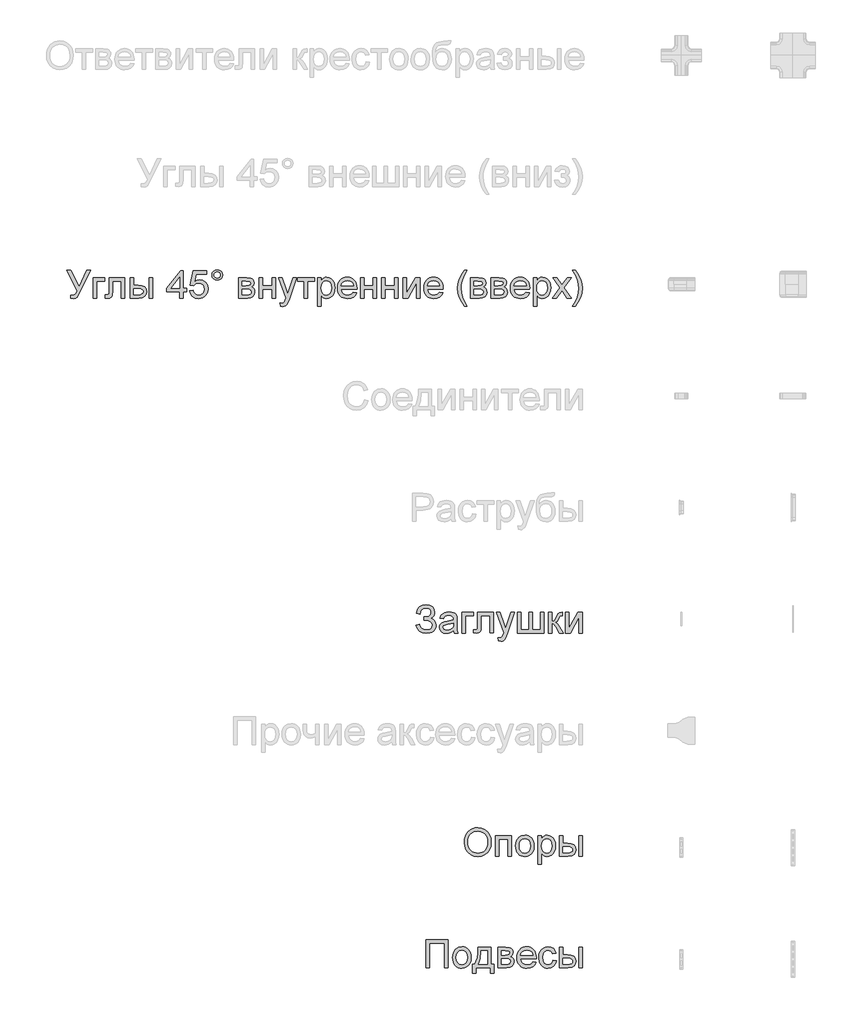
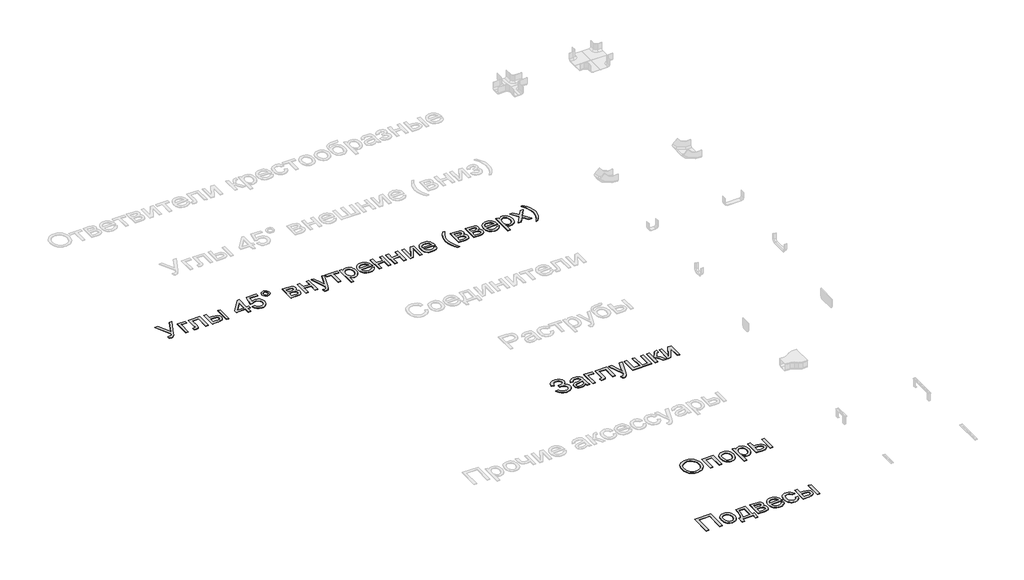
# One storey, part 3 of 11: 4 proxies.
"""IFC4 building model written with IfcOpenShell, lengths in millimetres."""

import ifcopenshell
import ifcopenshell.guid

model = None  # the IFC model being written
_history = None  # IfcOwnerHistory: only IFC2X3 demands one
_inside = {}  # id of a spatial element -> (the spatial element, [elements in it])
_under = {}  # id of a project, library or spatial element -> (it, [spatial elements below it])
_declared = {}  # id of a project -> (the project, [libraries it declares])
_typed = {}  # id of a type object -> (the type object, [elements of that type])
_made_of = {}  # id of a material, layer set ... -> (it, [elements and type objects made of it])


def new_model(schema):
    """Start an empty IFC model of exactly this schema.

    Asked for "IFC4X3", IfcOpenShell would pick the latest addendum, in which some entities
    have other attributes; the version numbers below select the first issue.
    IFC2X3 requires an IfcOwnerHistory on every rooted entity: one is made here for all.
    """
    global model, _history
    if schema == "IFC4X3":
        model = ifcopenshell.file(schema_version=(4, 3, 0, 0))
    else:
        model = ifcopenshell.file(schema=schema)
    _inside.clear()
    _under.clear()
    _declared.clear()
    _typed.clear()
    _made_of.clear()
    _history = None
    if model.schema == "IFC2X3":
        org = make("IfcOrganization", Name="unknown")
        user = make(
            "IfcPersonAndOrganization",
            ThePerson=make("IfcPerson", FamilyName="unknown"),
            TheOrganization=org,
        )
        app = make(
            "IfcApplication",
            ApplicationDeveloper=org,
            Version="unknown",
            ApplicationFullName="unknown",
            ApplicationIdentifier="unknown",
        )
        _history = make(
            "IfcOwnerHistory",
            OwningUser=user,
            OwningApplication=app,
            ChangeAction="ADDED",
            CreationDate=0,
        )
    return model


def make(cls, **values):
    """One entity of the class cls with the attributes given. An attribute that is None is left unset."""
    return model.create_entity(
        cls, **{name: value for name, value in values.items() if value is not None}
    )


def rooted(cls, **values):
    """An entity with a GlobalId (a new one), such as an element, a storey or a relation."""
    return make(cls, GlobalId=ifcopenshell.guid.new(), OwnerHistory=_history, **values)


def si_unit(unit_type, name, prefix=None):
    """IfcSIUnit, for example si_unit("LENGTHUNIT", "METRE", prefix="MILLI")."""
    return make("IfcSIUnit", UnitType=unit_type, Prefix=prefix, Name=name)


def assignment(units):
    """IfcUnitAssignment: the units of a project."""
    return None if units is None else make("IfcUnitAssignment", Units=units)


def point(xyz):
    """IfcCartesianPoint."""
    return None if xyz is None else make("IfcCartesianPoint", Coordinates=xyz)


def direction(xyz):
    """IfcDirection."""
    return None if xyz is None else make("IfcDirection", DirectionRatios=xyz)


def frame(location, z_axis=None, x_axis=None):
    """IfcAxis2Placement3D, a coordinate frame: its origin and axes. An axis left out is left unset."""
    return make(
        "IfcAxis2Placement3D",
        Location=point(location),
        Axis=direction(z_axis),
        RefDirection=direction(x_axis),
    )


def origin():
    """The frame at (0, 0, 0) with its axes left unset."""
    return frame((0.0, 0.0, 0.0))


def origin_with_axes():
    """The frame at (0, 0, 0) with the z axis (0, 0, 1) and the x axis (1, 0, 0) written out."""
    return frame((0.0, 0.0, 0.0), z_axis=(0.0, 0.0, 1.0), x_axis=(1.0, 0.0, 0.0))


def place(relative_to, where):
    """IfcLocalPlacement: puts the frame where relative to a parent placement (None: the world)."""
    return make(
        "IfcLocalPlacement", PlacementRelTo=relative_to, RelativePlacement=where
    )


def context(
    kind, dimensions, precision=None, world=None, true_north=None, identifier=None
):
    """IfcGeometricRepresentationContext, for example the 3D "Model" context."""
    return make(
        "IfcGeometricRepresentationContext",
        ContextIdentifier=identifier,
        ContextType=kind,
        CoordinateSpaceDimension=dimensions,
        Precision=precision,
        WorldCoordinateSystem=world,
        TrueNorth=true_north,
    )


def project(units=None, contexts=None):
    """IfcProject with its units and contexts."""
    return rooted(
        "IfcProject",
        Name="project",
        RepresentationContexts=contexts,
        UnitsInContext=assignment(units),
    )


def spatial(cls, under=None, at=None, **own):
    """A site, building, storey or space (cls), placed at a placement, below another one or the project."""
    s = rooted(cls, ObjectPlacement=at, **own)
    if under is not None:
        _under.setdefault(under.id(), (under, []))[1].append(s)
    return s


def polyline(points):
    """IfcPolyline through the points."""
    return make("IfcPolyline", Points=[point(p) for p in points])


def outline(outer, holes=None, kind="AREA"):
    """IfcArbitraryClosedProfileDef: a profile drawn as a closed curve; with holes, ...WithVoids."""
    if holes is None:
        return make("IfcArbitraryClosedProfileDef", ProfileType=kind, OuterCurve=outer)
    return make(
        "IfcArbitraryProfileDefWithVoids",
        ProfileType=kind,
        OuterCurve=outer,
        InnerCurves=holes,
    )


def extrude(swept, where, along, depth):
    """IfcExtrudedAreaSolid: the profile swept, set in the frame where, extruded along a direction by depth."""
    return make(
        "IfcExtrudedAreaSolid",
        SweptArea=swept,
        Position=where,
        ExtrudedDirection=direction(along),
        Depth=depth,
    )


def shape(context_of_items, identifier, shape_type, items):
    """IfcShapeRepresentation: the items that make up one representation, for example the "Body"."""
    return make(
        "IfcShapeRepresentation",
        ContextOfItems=context_of_items,
        RepresentationIdentifier=identifier,
        RepresentationType=shape_type,
        Items=items,
    )


def made_of(thing, what):
    """Note that an element or type object is made of a material, layer set ...; save() writes the relation."""
    if what is not None:
        _made_of.setdefault(what.id(), (what, []))[1].append(thing)
    return thing


def element(
    cls,
    number,
    at=None,
    inside=None,
    cuts=None,
    type_object=None,
    material=None,
    context=None,
    identifier="Body",
    shape_type=None,
    held_by="IfcProductDefinitionShape",
    body=None,
    shapes=None,
    **own,
):
    """One element of the class cls, such as IfcWall. Its Tag is "e" and its number.

    at: its placement. inside: the storey or other place that contains it. cuts: it is an
    opening in that element (IfcRelVoidsElement). A single representation is given by context,
    identifier, shape_type and body (its items); several are given by shapes. held_by: the class
    of the entity that holds the representations. save() writes the other relations.
    """
    e = rooted(cls, Tag="e%d" % number, ObjectPlacement=at, **own)
    if body is not None:
        shapes = [shape(context, identifier, shape_type, body)]
    if shapes is not None:
        e.Representation = make(held_by, Representations=shapes)
    if inside is not None:
        _inside.setdefault(inside.id(), (inside, []))[1].append(e)
    if cuts is not None:
        rooted(
            "IfcRelVoidsElement", RelatingBuildingElement=cuts, RelatedOpeningElement=e
        )
    if type_object is not None:
        _typed.setdefault(type_object.id(), (type_object, []))[1].append(e)
    return made_of(e, material)


def aggregate(whole, parts):
    """IfcRelAggregates: a whole, such as a stair, and the parts it consists of."""
    return rooted("IfcRelAggregates", RelatingObject=whole, RelatedObjects=parts)


def save(model, path):
    """Write the relations noted so far, then the file.

    IfcRelAggregates (storeys below a building ...), IfcRelContainedInSpatialStructure (elements
    in a storey), IfcRelDefinesByType, IfcRelAssociatesMaterial and IfcRelDeclares: one each for
    every whole, place, type object, material and project.
    """
    for whole, parts in _under.values():
        aggregate(whole, parts)
    for where, things in _inside.values():
        rooted(
            "IfcRelContainedInSpatialStructure",
            RelatedElements=things,
            RelatingStructure=where,
        )
    for kind, things in _typed.values():
        rooted("IfcRelDefinesByType", RelatedObjects=things, RelatingType=kind)
    for what, things in _made_of.values():
        rooted("IfcRelAssociatesMaterial", RelatedObjects=things, RelatingMaterial=what)
    for by, libraries in _declared.values():
        rooted("IfcRelDeclares", RelatingContext=by, RelatedDefinitions=libraries)
    model.write(path)


model = new_model("IFC4")

# Units and contexts
model_context = context("Model", 3, world=origin())
ifc_project = project(units=[si_unit("LENGTHUNIT", "METRE", prefix="MILLI")], contexts=[model_context])

# Site, building, storey
site = spatial("IfcSite", under=ifc_project)
building = spatial("IfcBuilding", under=site)
storey = spatial("IfcBuildingStorey", under=building, Name="Этаж 01", Elevation=0.0)

# Proxies
placement = place(None, origin())
element("IfcBuildingElementProxy", 1, Name="АБН_Маленькая надпись", ObjectType="АБН_Маленькая надпись", at=placement, inside=storey, context=model_context, shape_type="SweptSolid", body=[
    extrude(outline(polyline([(-19226.9236483, 2782.6703326), (-19192.1587997, 2782.6703326), (-19117.0495591, 2633.9233793), (-19049.4818993, 2782.6703326), (-19015.0236191, 2782.6703326), (-19110.3663695, 2587.0184249), (-19124.7597525, 2556.6375034), (-19136.3020501, 2538.9485108), (-19148.6107686, 2530.4412397), (-19165.3034141, 2527.6054827), (-19193.5690141, 2531.5295573), (-19193.5690141, 2558.9980796), (-19168.8596067, 2558.9980796), (-19158.9727781, 2560.7455191), (-19150.5268206, 2565.9878375), (-19142.4180883, 2577.4381646), (-19133.5429352, 2597.8096301), (-19226.9236483, 2782.6703326)])), origin_with_axes(), (0.0, 0.0, 1.0), 5.0),
    extrude(outline(polyline([(-18989.5171341, 2715.9610642), (-18887.4911941, 2715.9610642), (-18887.4911941, 2684.5684673), (-18958.1245371, 2684.5684673), (-18958.1245371, 2531.5295573), (-18989.5171341, 2531.5295573), (-18989.5171341, 2715.9610642)])), origin_with_axes(), (0.0, 0.0, 1.0), 5.0),
    extrude(outline(polyline([(-18848.2504479, 2715.9610642), (-18706.9837618, 2715.9610642), (-18706.9837618, 2531.7134983), (-18738.3763587, 2531.7134983), (-18738.3763587, 2684.5684673), (-18816.857851, 2684.5684673), (-18816.857851, 2596.5833568), (-18818.9731725, 2555.99371), (-18822.9355681, 2546.8043243), (-18830.5921121, 2538.8565403), (-18842.2110518, 2533.361303), (-18858.0606345, 2531.5295573), (-18883.5671195, 2533.1237126), (-18883.5671195, 2562.9221542), (-18869.52629, 2562.9221542), (-18855.3321763, 2564.8535347), (-18849.6606622, 2570.9849013), (-18848.2504479, 2598.3614531), (-18848.2504479, 2715.9610642)])), origin_with_axes(), (0.0, 0.0, 1.0), 5.0),
    extrude(outline(polyline([(-18487.2355833, 2715.9610642), (-18455.8429864, 2715.9610642), (-18455.8429864, 2531.5295573), (-18487.2355833, 2531.5295573), (-18487.2355833, 2715.9610642)])), origin_with_axes(), (0.0, 0.0, 1.0), 5.0),
    extrude(outline(polyline([(-18659.8948664, 2715.9610642), (-18628.5022695, 2715.9610642), (-18628.5022695, 2649.2517957), (-18589.690719, 2649.2517957), (-18556.1444795, 2645.3200569), (-18531.2894522, 2633.5248404), (-18515.9073863, 2614.8165081), (-18510.780031, 2590.1454218), (-18515.0796518, 2567.6816275), (-18527.9785143, 2548.7280405), (-18550.3196813, 2535.8291781), (-18582.9462157, 2531.5295573), (-18659.8948664, 2531.5295573), (-18659.8948664, 2715.9610642)]), holes=[polyline([(-18628.5022695, 2562.9221542), (-18596.2512812, 2562.9221542), (-18571.250634, 2564.569959), (-18554.6193021, 2569.5133733), (-18545.2842965, 2577.9516665), (-18542.1726279, 2590.0841082), (-18544.4795546, 2600.3388188), (-18551.4003346, 2609.3979129), (-18566.1999207, 2615.7438773), (-18592.1432656, 2617.8591988), (-18628.5022695, 2617.8591988), (-18628.5022695, 2562.9221542)])]), origin_with_axes(), (0.0, 0.0, 1.0), 5.0),
    extrude(outline(polyline([(-18216.4744349, 2531.5295573), (-18216.4744349, 2590.3906765), (-18330.2725987, 2590.3906765), (-18330.2725987, 2621.7832734), (-18208.6262856, 2778.746258), (-18185.0818379, 2778.746258), (-18185.0818379, 2621.7832734), (-18153.689241, 2621.7832734), (-18153.689241, 2590.3906765), (-18185.0818379, 2590.3906765), (-18185.0818379, 2531.5295573), (-18216.4744349, 2531.5295573)]), holes=[polyline([(-18216.4744349, 2621.7832734), (-18216.4744349, 2718.7814928), (-18291.6449892, 2621.7832734), (-18216.4744349, 2621.7832734)])]), origin_with_axes(), (0.0, 0.0, 1.0), 5.0),
    extrude(outline(polyline([(-18126.2207187, 2598.2388257), (-18094.8281218, 2602.1629003), (-18089.0646372, 2583.3166123), (-18079.009196, 2569.8199416), (-18064.7077834, 2561.7035451), (-18046.2063848, 2558.9980796), (-18023.7042694, 2562.7612058), (-18006.8430113, 2574.0505846), (-17996.3123892, 2591.5633004), (-17992.8021818, 2613.9964379), (-17996.0901271, 2635.1189958), (-18005.9539631, 2651.2751467), (-18022.4703319, 2661.5298573), (-18045.7158754, 2664.9480942), (-18060.9446572, 2663.5838651), (-18073.2763682, 2659.4911779), (-18090.9040472, 2645.3277211), (-18122.2966441, 2649.2517957), (-18094.8281218, 2778.746258), (-17973.1818087, 2778.746258), (-17973.1818087, 2747.3536611), (-18069.4442641, 2747.3536611), (-18082.871957, 2678.191846), (-18060.4464837, 2691.8034798), (-18036.9480212, 2696.3406911), (-18007.6170963, 2690.7151623), (-17983.2679068, 2673.8385757), (-17966.8741653, 2648.1174929), (-17961.4095849, 2615.9584752), (-17966.3300066, 2584.5658782), (-17981.0912716, 2557.7104926), (-17994.135754, 2544.5395508), (-18009.3568716, 2535.1317351), (-18026.7546243, 2529.4870458), (-18046.3290121, 2527.6054827), (-18077.1621218, 2532.4415981), (-18101.7259092, 2546.9499442), (-18118.5641747, 2569.4443954), (-18126.2207187, 2598.2388257)])), origin_with_axes(), (0.0, 0.0, 1.0), 5.0),
    extrude(outline(polyline([(-17926.0929133, 2739.5668255), (-17922.6363554, 2757.6696854), (-17912.2666817, 2772.8601461), (-17897.0532283, 2783.160842), (-17879.0653316, 2786.5944073), (-17860.8705013, 2783.160842), (-17845.6493837, 2772.8601461), (-17835.3486879, 2757.6696854), (-17831.9151226, 2739.5668255), (-17835.3716805, 2721.4869583), (-17845.7413542, 2706.2428482), (-17860.9854644, 2695.8731744), (-17879.0653316, 2692.4166165), (-17897.0532283, 2695.8501818), (-17912.2666817, 2706.1508777), (-17922.6363554, 2721.3719952), (-17926.0929133, 2739.5668255)]), holes=[polyline([(-17906.4725403, 2739.5055119), (-17904.4568535, 2728.9442329), (-17898.4097932, 2720.0690798), (-17889.5116474, 2714.0450121), (-17878.9427043, 2712.0369896), (-17868.4657316, 2714.0450121), (-17859.5982427, 2720.0690798), (-17853.5511824, 2728.9442329), (-17851.5354957, 2739.5055119), (-17853.5511824, 2750.0667908), (-17859.5982427, 2758.941944), (-17868.4657316, 2764.9660116), (-17878.9427043, 2766.9740342), (-17889.5116474, 2764.9660116), (-17898.4097932, 2758.941944), (-17904.4568535, 2750.0667908), (-17906.4725403, 2739.5055119)])]), origin_with_axes(), (0.0, 0.0, 1.0), 5.0),
    extrude(outline(polyline([(-17686.7243618, 2715.9610642), (-17617.5625467, 2715.9610642), (-17579.6400444, 2711.7610781), (-17568.0977468, 2705.8136525), (-17558.3028887, 2696.3713479), (-17551.6120349, 2684.0702937), (-17549.3817503, 2669.5466191), (-17554.7773529, 2647.7496109), (-17571.0254743, 2632.2065966), (-17559.4065346, 2625.6843554), (-17549.9335733, 2615.1920543), (-17543.6335941, 2601.5574279), (-17541.5336011, 2585.6082106), (-17546.8525616, 2561.6805525), (-17559.4985051, 2544.8346228), (-17579.5174171, 2534.8558236), (-17606.9552825, 2531.5295573), (-17686.7243618, 2531.5295573), (-17686.7243618, 2715.9610642)]), holes=[polyline([(-17655.3317649, 2645.3277211), (-17624.30705, 2645.3277211), (-17598.7085945, 2646.9218764), (-17586.2619203, 2653.2984977), (-17580.7743472, 2664.8254669), (-17583.1809086, 2674.1911293), (-17590.4005927, 2680.215197), (-17623.3260313, 2684.5684673), (-17655.3317649, 2684.5684673), (-17655.3317649, 2645.3277211)]), polyline([(-17655.3317649, 2562.9221542), (-17616.8267827, 2562.9221542), (-17595.8421806, 2564.3400327), (-17582.6750708, 2568.5936683), (-17575.6086709, 2576.3268544), (-17572.926198, 2588.1833845), (-17578.2911437, 2603.2972032), (-17592.2706596, 2612.0957142), (-17619.892466, 2613.9351242), (-17655.3317649, 2613.9351242), (-17655.3317649, 2562.9221542)])]), origin_with_axes(), (0.0, 0.0, 1.0), 5.0),
    extrude(outline(polyline([(-17502.2928549, 2715.9610642), (-17470.900258, 2715.9610642), (-17470.900258, 2645.3277211), (-17388.4946911, 2645.3277211), (-17388.4946911, 2715.9610642), (-17357.1020941, 2715.9610642), (-17357.1020941, 2531.5295573), (-17388.4946911, 2531.5295573), (-17388.4946911, 2613.9351242), (-17470.900258, 2613.9351242), (-17470.900258, 2531.5295573), (-17502.2928549, 2531.5295573), (-17502.2928549, 2715.9610642)])), origin_with_axes(), (0.0, 0.0, 1.0), 5.0),
    extrude(outline(polyline([(-17310.0131988, 2460.8962142), (-17313.9372734, 2491.1238515), (-17297.9957202, 2488.3647365), (-17283.0964994, 2491.8289586), (-17273.9607632, 2501.485861), (-17265.37685, 2524.601113), (-17262.9243034, 2532.2040076), (-17329.6335718, 2715.9610642), (-17296.5241923, 2715.9610642), (-17261.1462071, 2613.5672422), (-17248.8221602, 2572.6097134), (-17236.4981134, 2608.7847763), (-17200.1391095, 2715.9610642), (-17167.2749846, 2715.9610642), (-17231.4703928, 2527.1149733), (-17248.1477099, 2486.1574445), (-17256.6856379, 2473.0823053), (-17266.3578687, 2464.0232112), (-17277.5935979, 2458.7349075), (-17290.8220213, 2456.9721396), (-17310.0131988, 2460.8962142)])), origin_with_axes(), (0.0, 0.0, 1.0), 5.0),
    extrude(outline(polyline([(-17156.9742888, 2715.9610642), (-17007.8594534, 2715.9610642), (-17007.8594534, 2684.5684673), (-17066.7205726, 2684.5684673), (-17066.7205726, 2531.5295573), (-17098.1131695, 2531.5295573), (-17098.1131695, 2684.5684673), (-17156.9742888, 2684.5684673), (-17156.9742888, 2715.9610642)])), origin_with_axes(), (0.0, 0.0, 1.0), 5.0),
    extrude(outline(polyline([(-16980.3909311, 2460.8962142), (-16980.3909311, 2715.9610642), (-16948.9983342, 2715.9610642), (-16948.9983342, 2685.1816039), (-16938.758952, 2700.3644004), (-16927.2932964, 2711.2092551), (-16913.9269173, 2717.7161679), (-16897.9853642, 2719.8851388), (-16876.7555073, 2716.8501123), (-16858.192795, 2707.745033), (-16843.0789764, 2693.1217237), (-16832.1958007, 2673.5320074), (-16825.61991, 2650.401427), (-16823.4279465, 2625.155525), (-16825.9034857, 2598.3078036), (-16833.3301035, 2574.2958392), (-16845.4702093, 2554.338241), (-16862.0862128, 2539.653618), (-16881.4383386, 2530.6175165), (-16901.7868114, 2527.6054827), (-16916.2185155, 2529.6211694), (-16929.1020496, 2535.6682297), (-16948.9983342, 2556.0550236), (-16948.9983342, 2460.8962142), (-16980.3909311, 2460.8962142)]), holes=[polyline([(-16948.9983342, 2622.2737828), (-16945.6030899, 2594.1308101), (-16935.4173572, 2574.4491234), (-16920.3878448, 2562.8608405), (-16902.4612618, 2558.9980796), (-16884.2434388, 2562.9987963), (-16868.830716, 2575.0009464), (-16858.3230865, 2595.4030687), (-16854.8205434, 2624.6037021), (-16858.2387803, 2652.5933905), (-16868.4934909, 2672.5509888), (-16883.5000106, 2684.5071536), (-16901.1736748, 2688.4925419), (-16918.9163168, 2684.2542347), (-16934.4976522, 2671.5393133), (-16945.3731637, 2650.7463163), (-16948.9983342, 2622.2737828)])]), origin_with_axes(), (0.0, 0.0, 1.0), 5.0),
    extrude(outline(polyline([(-16658.9846946, 2586.4666019), (-16628.2052344, 2582.5425273), (-16639.2953437, 2559.3506332), (-16656.9920005, 2542.0141941), (-16680.896666, 2531.2076605), (-16710.6108013, 2527.6054827), (-16730.0893865, 2529.1594009), (-16747.444986, 2533.8211555), (-16762.6775999, 2541.5907466), (-16775.7872281, 2552.4681742), (-16786.3293465, 2566.1507019), (-16793.8594311, 2582.3355937), (-16798.3774819, 2601.0228494), (-16799.8834988, 2622.2124691), (-16798.3621534, 2644.1206083), (-16793.7981174, 2663.430581), (-16786.1913908, 2680.142387), (-16775.5419734, 2694.2560265), (-16762.4668342, 2705.4687631), (-16747.5829418, 2713.4778607), (-16730.8902963, 2718.2833193), (-16712.3888976, 2719.8851388), (-16694.4833911, 2718.2871514), (-16678.2908352, 2713.4931891), (-16663.8112298, 2705.5032521), (-16651.0445749, 2694.3173401), (-16640.6231677, 2680.2343575), (-16633.1793055, 2663.5532083), (-16628.7129882, 2644.2738925), (-16627.2242157, 2622.3964101), (-16627.4081567, 2613.9351242), (-16768.4909019, 2613.9351242), (-16763.0569782, 2590.4366618), (-16750.4340273, 2573.1615364), (-16732.2162043, 2562.5389438), (-16709.9976646, 2558.9980796), (-16693.2896907, 2560.6382201), (-16679.2182044, 2565.5586418), (-16667.7832057, 2574.065913), (-16658.9846946, 2586.4666019)]), holes=[polyline([(-16768.4909019, 2645.3277211), (-16658.6168126, 2645.3277211), (-16662.862784, 2661.9130677), (-16671.1861141, 2673.7772621), (-16689.4882434, 2684.8137219), (-16712.5115249, 2688.4925419), (-16733.6724039, 2685.5571501), (-16751.1697912, 2676.7509749), (-16763.3328897, 2663.0243779), (-16768.4909019, 2645.3277211)])]), origin_with_axes(), (0.0, 0.0, 1.0), 5.0),
    extrude(outline(polyline([(-16595.8316188, 2715.9610642), (-16564.4390219, 2715.9610642), (-16564.4390219, 2645.3277211), (-16482.0334549, 2645.3277211), (-16482.0334549, 2715.9610642), (-16450.640858, 2715.9610642), (-16450.640858, 2531.5295573), (-16482.0334549, 2531.5295573), (-16482.0334549, 2613.9351242), (-16564.4390219, 2613.9351242), (-16564.4390219, 2531.5295573), (-16595.8316188, 2531.5295573), (-16595.8316188, 2715.9610642)])), origin_with_axes(), (0.0, 0.0, 1.0), 5.0),
    extrude(outline(polyline([(-16403.5519626, 2715.9610642), (-16372.1593657, 2715.9610642), (-16372.1593657, 2645.3277211), (-16289.7537988, 2645.3277211), (-16289.7537988, 2715.9610642), (-16258.3612019, 2715.9610642), (-16258.3612019, 2531.5295573), (-16289.7537988, 2531.5295573), (-16289.7537988, 2613.9351242), (-16372.1593657, 2613.9351242), (-16372.1593657, 2531.5295573), (-16403.5519626, 2531.5295573), (-16403.5519626, 2715.9610642)])), origin_with_axes(), (0.0, 0.0, 1.0), 5.0),
    extrude(outline(polyline([(-16211.2723065, 2715.9610642), (-16179.8797096, 2715.9610642), (-16179.8797096, 2575.3075147), (-16102.7471179, 2715.9610642), (-16062.1574711, 2715.9610642), (-16062.1574711, 2531.5295573), (-16093.550068, 2531.5295573), (-16093.550068, 2671.3247154), (-16170.1921504, 2531.5295573), (-16211.2723065, 2531.5295573), (-16211.2723065, 2715.9610642)])), origin_with_axes(), (0.0, 0.0, 1.0), 5.0),
    extrude(outline(polyline([(-15885.9419954, 2586.4666019), (-15855.1625352, 2582.5425273), (-15866.2526445, 2559.3506332), (-15883.9493013, 2542.0141941), (-15907.8539668, 2531.2076605), (-15937.5681021, 2527.6054827), (-15957.0466873, 2529.1594009), (-15974.4022868, 2533.8211555), (-15989.6349007, 2541.5907466), (-16002.7445289, 2552.4681742), (-16013.2866473, 2566.1507019), (-16020.8167319, 2582.3355937), (-16025.3347827, 2601.0228494), (-16026.8407996, 2622.2124691), (-16025.3194542, 2644.1206083), (-16020.7554182, 2663.430581), (-16013.1486916, 2680.142387), (-16002.4992742, 2694.2560265), (-15989.424135, 2705.4687631), (-15974.5402426, 2713.4778607), (-15957.8475971, 2718.2833193), (-15939.3461984, 2719.8851388), (-15921.4406919, 2718.2871514), (-15905.248136, 2713.4931891), (-15890.7685306, 2705.5032521), (-15878.0018757, 2694.3173401), (-15867.5804685, 2680.2343575), (-15860.1366063, 2663.5532083), (-15855.670289, 2644.2738925), (-15854.1815165, 2622.3964101), (-15854.3654575, 2613.9351242), (-15995.4482027, 2613.9351242), (-15990.014279, 2590.4366618), (-15977.3913281, 2573.1615364), (-15959.1735051, 2562.5389438), (-15936.9549654, 2558.9980796), (-15920.2469915, 2560.6382201), (-15906.1755052, 2565.5586418), (-15894.7405065, 2574.065913), (-15885.9419954, 2586.4666019)]), holes=[polyline([(-15995.4482027, 2645.3277211), (-15885.5741134, 2645.3277211), (-15889.8200848, 2661.9130677), (-15898.1434149, 2673.7772621), (-15916.4455442, 2684.8137219), (-15939.4688257, 2688.4925419), (-15960.6297047, 2685.5571501), (-15978.127092, 2676.7509749), (-15990.2901905, 2663.0243779), (-15995.4482027, 2645.3277211)])]), origin_with_axes(), (0.0, 0.0, 1.0), 5.0),
    extrude(outline(polyline([(-15661.9018604, 2460.8962142), (-15686.2280573, 2495.0325977), (-15706.4768954, 2534.5339269), (-15720.1345145, 2577.4841498), (-15724.6870542, 2621.9672144), (-15721.2841457, 2660.9780343), (-15711.0754204, 2698.3027284), (-15690.8112538, 2740.578501), (-15661.9018604, 2782.6703326), (-15638.3574127, 2782.6703326), (-15667.7266586, 2732.9449496), (-15685.3849944, 2684.7524083), (-15691.3170916, 2653.3444829), (-15693.2944573, 2621.7832734), (-15689.860892, 2581.538516), (-15679.5601961, 2541.309087), (-15662.3923697, 2501.0949864), (-15638.3574127, 2460.8962142), (-15661.9018604, 2460.8962142)])), origin_with_axes(), (0.0, 0.0, 1.0), 5.0),
    extrude(outline(polyline([(-15606.9648157, 2715.9610642), (-15537.8030007, 2715.9610642), (-15499.8804983, 2711.7610781), (-15488.3382007, 2705.8136525), (-15478.5433426, 2696.3713479), (-15471.8524888, 2684.0702937), (-15469.6222042, 2669.5466191), (-15475.0178068, 2647.7496109), (-15491.2659283, 2632.2065966), (-15479.6469886, 2625.6843554), (-15470.1740272, 2615.1920543), (-15463.874048, 2601.5574279), (-15461.774055, 2585.6082106), (-15467.0930155, 2561.6805525), (-15479.7389591, 2544.8346228), (-15499.757871, 2534.8558236), (-15527.1957365, 2531.5295573), (-15606.9648157, 2531.5295573), (-15606.9648157, 2715.9610642)]), holes=[polyline([(-15575.5722188, 2645.3277211), (-15544.5475039, 2645.3277211), (-15518.9490484, 2646.9218764), (-15506.5023742, 2653.2984977), (-15501.0148011, 2664.8254669), (-15503.4213625, 2674.1911293), (-15510.6410467, 2680.215197), (-15543.5664852, 2684.5684673), (-15575.5722188, 2684.5684673), (-15575.5722188, 2645.3277211)]), polyline([(-15575.5722188, 2562.9221542), (-15537.0672367, 2562.9221542), (-15516.0826345, 2564.3400327), (-15502.9155248, 2568.5936683), (-15495.8491248, 2576.3268544), (-15493.1666519, 2588.1833845), (-15498.5315977, 2603.2972032), (-15512.5111135, 2612.0957142), (-15540.13292, 2613.9351242), (-15575.5722188, 2613.9351242), (-15575.5722188, 2562.9221542)])]), origin_with_axes(), (0.0, 0.0, 1.0), 5.0),
    extrude(outline(polyline([(-15422.5333088, 2715.9610642), (-15353.3714937, 2715.9610642), (-15315.4489914, 2711.7610781), (-15303.9066938, 2705.8136525), (-15294.1118357, 2696.3713479), (-15287.4209819, 2684.0702937), (-15285.1906973, 2669.5466191), (-15290.5862999, 2647.7496109), (-15306.8344213, 2632.2065966), (-15295.2154817, 2625.6843554), (-15285.7425203, 2615.1920543), (-15279.4425411, 2601.5574279), (-15277.3425481, 2585.6082106), (-15282.6615086, 2561.6805525), (-15295.3074522, 2544.8346228), (-15315.3263641, 2534.8558236), (-15342.7642295, 2531.5295573), (-15422.5333088, 2531.5295573), (-15422.5333088, 2715.9610642)]), holes=[polyline([(-15391.1407119, 2645.3277211), (-15360.115997, 2645.3277211), (-15334.5175415, 2646.9218764), (-15322.0708673, 2653.2984977), (-15316.5832942, 2664.8254669), (-15318.9898556, 2674.1911293), (-15326.2095398, 2680.215197), (-15359.1349783, 2684.5684673), (-15391.1407119, 2684.5684673), (-15391.1407119, 2645.3277211)]), polyline([(-15391.1407119, 2562.9221542), (-15352.6357297, 2562.9221542), (-15331.6511276, 2564.3400327), (-15318.4840179, 2568.5936683), (-15311.4176179, 2576.3268544), (-15308.735145, 2588.1833845), (-15314.1000908, 2603.2972032), (-15328.0796066, 2612.0957142), (-15355.701413, 2613.9351242), (-15391.1407119, 2613.9351242), (-15391.1407119, 2562.9221542)])]), origin_with_axes(), (0.0, 0.0, 1.0), 5.0),
    extrude(outline(polyline([(-15108.9752216, 2586.4666019), (-15078.1957613, 2582.5425273), (-15089.2858707, 2559.3506332), (-15106.9825275, 2542.0141941), (-15130.8871929, 2531.2076605), (-15160.6013283, 2527.6054827), (-15180.0799135, 2529.1594009), (-15197.435513, 2533.8211555), (-15212.6681269, 2541.5907466), (-15225.7777551, 2552.4681742), (-15236.3198735, 2566.1507019), (-15243.8499581, 2582.3355937), (-15248.3680088, 2601.0228494), (-15249.8740258, 2622.2124691), (-15248.3526804, 2644.1206083), (-15243.7886444, 2663.430581), (-15236.1819178, 2680.142387), (-15225.5325004, 2694.2560265), (-15212.4573612, 2705.4687631), (-15197.5734688, 2713.4778607), (-15180.8808233, 2718.2833193), (-15162.3794246, 2719.8851388), (-15144.4739181, 2718.2871514), (-15128.2813621, 2713.4931891), (-15113.8017567, 2705.5032521), (-15101.0351019, 2694.3173401), (-15090.6136947, 2680.2343575), (-15083.1698325, 2663.5532083), (-15078.7035151, 2644.2738925), (-15077.2147427, 2622.3964101), (-15077.3986837, 2613.9351242), (-15218.4814288, 2613.9351242), (-15213.0475052, 2590.4366618), (-15200.4245542, 2573.1615364), (-15182.2067313, 2562.5389438), (-15159.9881916, 2558.9980796), (-15143.2802177, 2560.6382201), (-15129.2087313, 2565.5586418), (-15117.7737327, 2574.065913), (-15108.9752216, 2586.4666019)]), holes=[polyline([(-15218.4814288, 2645.3277211), (-15108.6073396, 2645.3277211), (-15112.853311, 2661.9130677), (-15121.1766411, 2673.7772621), (-15139.4787704, 2684.8137219), (-15162.5020519, 2688.4925419), (-15183.6629308, 2685.5571501), (-15201.1603182, 2676.7509749), (-15213.3234167, 2663.0243779), (-15218.4814288, 2645.3277211)])]), origin_with_axes(), (0.0, 0.0, 1.0), 5.0),
    extrude(outline(polyline([(-15045.8221458, 2460.8962142), (-15045.8221458, 2715.9610642), (-15014.4295488, 2715.9610642), (-15014.4295488, 2685.1816039), (-15004.1901666, 2700.3644004), (-14992.7245111, 2711.2092551), (-14979.358132, 2717.7161679), (-14963.4165789, 2719.8851388), (-14942.186722, 2716.8501123), (-14923.6240097, 2707.745033), (-14908.5101911, 2693.1217237), (-14897.6270154, 2673.5320074), (-14891.0511247, 2650.401427), (-14888.8591612, 2625.155525), (-14891.3347004, 2598.3078036), (-14898.7613182, 2574.2958392), (-14910.901424, 2554.338241), (-14927.5174275, 2539.653618), (-14946.8695533, 2530.6175165), (-14967.2180261, 2527.6054827), (-14981.6497302, 2529.6211694), (-14994.5332643, 2535.6682297), (-15014.4295488, 2556.0550236), (-15014.4295488, 2460.8962142), (-15045.8221458, 2460.8962142)]), holes=[polyline([(-15014.4295488, 2622.2737828), (-15011.0343046, 2594.1308101), (-15000.8485719, 2574.4491234), (-14985.8190595, 2562.8608405), (-14967.8924765, 2558.9980796), (-14949.6746535, 2562.9987963), (-14934.2619307, 2575.0009464), (-14923.7543012, 2595.4030687), (-14920.2517581, 2624.6037021), (-14923.669995, 2652.5933905), (-14933.9247056, 2672.5509888), (-14948.9312253, 2684.5071536), (-14966.6048895, 2688.4925419), (-14984.3475315, 2684.2542347), (-14999.9288669, 2671.5393133), (-15010.8043784, 2650.7463163), (-15014.4295488, 2622.2737828)])]), origin_with_axes(), (0.0, 0.0, 1.0), 5.0),
    extrude(outline(polyline([(-14873.1628627, 2531.5295573), (-14806.0857122, 2624.2358201), (-14869.2387881, 2715.9610642), (-14831.4695699, 2715.9610642), (-14800.996678, 2671.8152248), (-14786.7719075, 2650.9685784), (-14774.4478607, 2668.0137775), (-14739.7443258, 2715.9610642), (-14701.9751076, 2715.9610642), (-14768.3164941, 2624.2358201), (-14704.4276542, 2531.5295573), (-14742.1968724, 2531.5295573), (-14780.6405409, 2587.2636795), (-14787.6916125, 2597.4417481), (-14835.3936445, 2531.5295573), (-14873.1628627, 2531.5295573)])), origin_with_axes(), (0.0, 0.0, 1.0), 5.0),
    extrude(outline(polyline([(-14669.1109827, 2460.8962142), (-14692.6554304, 2460.8962142), (-14668.6204734, 2501.0949864), (-14651.4526469, 2541.309087), (-14641.1519511, 2581.538516), (-14637.7183858, 2621.7832734), (-14639.6957515, 2653.1145567), (-14645.6278487, 2684.2005853), (-14663.1022435, 2732.4544403), (-14692.6554304, 2782.6703326), (-14669.1109827, 2782.6703326), (-14640.2015893, 2740.578501), (-14619.9374227, 2698.3027284), (-14609.7286973, 2660.9780343), (-14606.3257889, 2621.9672144), (-14610.9013212, 2577.4841498), (-14624.6279181, 2534.5339269), (-14644.8997489, 2495.0325977), (-14669.1109827, 2460.8962142)])), origin_with_axes(), (0.0, 0.0, 1.0), 5.0),
])
element("IfcBuildingElementProxy", 2, Name="АБН_Маленькая надпись", ObjectType="АБН_Маленькая надпись", at=placement, inside=storey, context=model_context, shape_type="SweptSolid", body=[
    extrude(outline(polyline([(-16097.4741426, -397.8370997), (-16066.0815457, -389.9889504), (-16059.4520056, -406.9805001), (-16046.7983978, -423.9873781), (-16028.5805748, -436.7482848), (-16005.2583892, -441.0019204), (-15981.6296352, -437.8059456), (-15963.5957532, -428.2180211), (-15952.1684188, -414.1082137), (-15948.3593073, -397.3465903), (-15952.5209723, -379.7878893), (-15965.0059676, -366.2299049), (-15984.6646617, -357.5616854), (-16010.3474235, -354.6722789), (-16026.8407996, -354.6722789), (-16026.8407996, -323.279682), (-15991.3095302, -320.7351648), (-15979.7289116, -316.213282), (-15969.5738357, -307.7366677), (-15962.4921073, -296.5699163), (-15960.1315311, -283.9776221), (-15963.2738565, -269.1933645), (-15972.7008326, -256.478443), (-15987.4927545, -247.718253), (-16006.7299172, -244.7981897), (-16024.1200057, -247.0438027), (-16038.7663076, -253.7806417), (-16049.9867084, -264.2269575), (-16057.0990937, -277.6010009), (-16062.1574711, -299.7352343), (-16093.550068, -291.887085), (-16083.7973631, -257.5514322), (-16066.127531, -233.0259658), (-16040.5405718, -218.310686), (-16007.0364855, -213.4055927), (-15974.7165194, -218.5022912), (-15949.8614921, -233.7923866), (-15934.0195737, -255.9036274), (-15928.7389342, -281.4637618), (-15930.792942, -297.9839627), (-15936.9549654, -312.534462), (-15947.2250045, -325.1152598), (-15961.6030591, -335.7263561), (-15944.1439927, -343.7661106), (-15929.7812665, -357.3394233), (-15920.1703494, -375.2813348), (-15916.9667103, -396.4268853), (-15918.5033841, -411.9526552), (-15923.1134054, -426.1563491), (-15930.7967741, -439.0379671), (-15941.5534904, -450.5975091), (-15954.8470595, -460.1337002), (-15970.1409871, -466.9452653), (-16006.7299172, -472.3945173), (-16038.5670382, -467.7346787), (-16064.3034494, -453.7551629), (-16083.9391509, -430.4559699), (-16097.4741426, -397.8370997)])), origin_with_axes(), (0.0, 0.0, 1.0), 5.0),
    extrude(outline(polyline([(-15760.0037257, -444.925995), (-15775.0025813, -457.7865364), (-15790.4459608, -466.2018371), (-15806.6864181, -470.8463473), (-15824.0765066, -472.3945173), (-15850.3110913, -468.6697121), (-15869.6632171, -457.4952965), (-15881.5963894, -440.5267395), (-15885.5741134, -419.41951), (-15884.0719286, -406.4056845), (-15879.5653742, -394.5874754), (-15863.7771052, -376.5612576), (-15841.796156, -366.2605617), (-15814.634202, -361.5394095), (-15760.1876667, -350.7482043), (-15760.0037257, -343.7584464), (-15762.1650325, -329.7482737), (-15768.6489526, -320.5818807), (-15783.1496346, -313.7760638), (-15803.3524875, -311.5074581), (-15822.0531556, -313.0173071), (-15835.1129664, -317.5468542), (-15844.0187764, -325.9238338), (-15850.2574419, -338.9759804), (-15881.6500388, -335.0519058), (-15876.2007868, -317.8840794), (-15868.0690618, -304.3950729), (-15856.4961074, -294.0790486), (-15840.7231668, -286.4301688), (-15821.4323547, -281.6936881), (-15799.3057856, -280.1148612), (-15778.083593, -281.5097471), (-15761.2606559, -285.6944048), (-15748.5763913, -291.9867197), (-15739.770216, -299.7045774), (-15730.1439705, -321.0110763), (-15728.6111288, -348.4795986), (-15728.6111288, -387.5364038), (-15727.0169735, -442.0749096), (-15720.7629796, -468.4704427), (-15752.1555765, -468.4704427), (-15760.0037257, -444.925995)]), holes=[polyline([(-15760.0037257, -382.1408012), (-15810.6488137, -391.7670467), (-15837.6574836, -396.856081), (-15849.8895599, -405.1334259), (-15854.1815165, -417.2122181), (-15851.843933, -426.5472237), (-15844.8311825, -434.1961035), (-15833.2965491, -439.3004662), (-15817.393317, -441.0019204), (-15800.5320589, -439.1241894), (-15785.6328381, -433.4909964), (-15773.5540459, -425.1906588), (-15765.1540737, -415.3114944), (-15761.4292685, -405.1334259), (-15760.1876667, -391.0312827), (-15760.0037257, -382.1408012)])]), origin_with_axes(), (0.0, 0.0, 1.0), 5.0),
    extrude(outline(polyline([(-15685.4463081, -284.0389358), (-15583.4203681, -284.0389358), (-15583.4203681, -315.4315327), (-15654.0537111, -315.4315327), (-15654.0537111, -468.4704427), (-15685.4463081, -468.4704427), (-15685.4463081, -284.0389358)])), origin_with_axes(), (0.0, 0.0, 1.0), 5.0),
    extrude(outline(polyline([(-15544.1796219, -284.0389358), (-15402.9129358, -284.0389358), (-15402.9129358, -468.2865017), (-15434.3055327, -468.2865017), (-15434.3055327, -315.4315327), (-15512.787025, -315.4315327), (-15512.787025, -403.4166432), (-15514.9023465, -444.00629), (-15518.8647421, -453.1956757), (-15526.5212861, -461.1434597), (-15538.1402258, -466.638697), (-15553.9898084, -468.4704427), (-15579.4962934, -466.8762874), (-15579.4962934, -437.0778458), (-15565.455464, -437.0778458), (-15551.2613503, -435.1464653), (-15545.5898362, -429.0150987), (-15544.1796219, -401.6385469), (-15544.1796219, -284.0389358)])), origin_with_axes(), (0.0, 0.0, 1.0), 5.0),
    extrude(outline(polyline([(-15355.8240404, -539.1037858), (-15359.748115, -508.8761485), (-15343.8065619, -511.6352635), (-15328.9073411, -508.1710414), (-15319.7716048, -498.514139), (-15311.1876916, -475.398887), (-15308.735145, -467.7959924), (-15375.4444134, -284.0389358), (-15342.3350339, -284.0389358), (-15306.9570487, -386.4327578), (-15294.6330018, -427.3902866), (-15282.308955, -391.2152237), (-15245.9499511, -284.0389358), (-15213.0858262, -284.0389358), (-15277.2812344, -472.8850267), (-15293.9585515, -513.8425555), (-15302.4964795, -526.9176947), (-15312.1687103, -535.9767888), (-15323.4044395, -541.2650925), (-15336.632863, -543.0278604), (-15355.8240404, -539.1037858)])), origin_with_axes(), (0.0, 0.0, 1.0), 5.0),
    extrude(outline(polyline([(-15187.0888319, -284.0389358), (-15155.696235, -284.0389358), (-15155.696235, -437.0778458), (-15085.0628919, -437.0778458), (-15085.0628919, -284.0389358), (-15053.670295, -284.0389358), (-15053.670295, -437.0778458), (-14983.0369519, -437.0778458), (-14983.0369519, -284.0389358), (-14951.644355, -284.0389358), (-14951.644355, -468.4704427), (-15187.0888319, -468.4704427), (-15187.0888319, -284.0389358)])), origin_with_axes(), (0.0, 0.0, 1.0), 5.0),
    extrude(outline(polyline([(-14908.4795342, -284.0389358), (-14877.0869373, -284.0389358), (-14877.0869373, -362.5204281), (-14864.3183664, -361.1102138), (-14856.0563499, -356.8795709), (-14838.8272098, -324.015446), (-14824.5104688, -295.6578755), (-14811.8798537, -286.4301688), (-14788.9178858, -284.0389358), (-14782.9091466, -284.0389358), (-14782.9091466, -315.6154737), (-14791.3704324, -315.4315327), (-14806.6988489, -318.7424707), (-14817.4900541, -339.4051761), (-14830.1513261, -361.7540073), (-14847.9016324, -372.6984966), (-14828.0973183, -384.9152446), (-14808.6608862, -410.6516558), (-14775.0609973, -468.4704427), (-14810.7455509, -468.4704427), (-14843.6709894, -411.8779291), (-14860.2256792, -387.9349426), (-14867.9665295, -383.5893365), (-14877.0869373, -382.1408012), (-14877.0869373, -468.4704427), (-14908.4795342, -468.4704427), (-14908.4795342, -284.0389358)])), origin_with_axes(), (0.0, 0.0, 1.0), 5.0),
    extrude(outline(polyline([(-14755.4406242, -284.0389358), (-14724.0480273, -284.0389358), (-14724.0480273, -424.6924853), (-14646.9154357, -284.0389358), (-14606.3257889, -284.0389358), (-14606.3257889, -468.4704427), (-14637.7183858, -468.4704427), (-14637.7183858, -328.6752846), (-14714.3604681, -468.4704427), (-14755.4406242, -468.4704427), (-14755.4406242, -284.0389358)])), origin_with_axes(), (0.0, 0.0, 1.0), 5.0),
])
element("IfcBuildingElementProxy", 3, Name="АБН_Маленькая надпись", ObjectType="АБН_Маленькая надпись", at=placement, inside=storey, context=model_context, shape_type="SweptSolid", body=[
    extrude(outline(polyline([(-15661.9018604, -2346.210993), (-15659.8095315, -2316.7536087), (-15653.532545, -2290.6761401), (-15643.0709007, -2267.9785875), (-15628.4245988, -2248.6609506), (-15610.471191, -2233.2367315), (-15590.0882292, -2222.2194322), (-15567.2757134, -2215.6090526), (-15542.0336436, -2213.4055927), (-15509.0928766, -2217.5442652), (-15479.5550181, -2229.9602825), (-15455.0295517, -2249.779925), (-15437.1259613, -2276.1294729), (-15426.181472, -2307.7366677), (-15422.5333088, -2343.3292507), (-15426.3730772, -2379.3970146), (-15437.8923821, -2411.4487335), (-15456.4550945, -2437.8442666), (-15481.4250849, -2456.9434735), (-15510.7100246, -2468.5317564), (-15542.2175846, -2472.3945173), (-15575.6641893, -2468.1255534), (-15605.3706604, -2455.3186614), (-15629.8348131, -2435.1311369), (-15647.5544625, -2408.7202753), (-15658.3150109, -2378.3316897), (-15661.9018604, -2346.210993)]), holes=[polyline([(-15630.5092634, -2346.5175613), (-15628.9400168, -2367.3297188), (-15624.2322769, -2385.8042927), (-15616.3860437, -2401.9412832), (-15605.4013173, -2415.7406901), (-15592.0483505, -2426.7924784), (-15577.0973963, -2434.6866128), (-15560.5484546, -2439.4230935), (-15542.4015256, -2441.0019204), (-15523.9441961, -2439.4077651), (-15507.1998172, -2434.6252992), (-15492.1683888, -2426.6545226), (-15478.8499109, -2415.4954354), (-15467.9456587, -2401.4047886), (-15460.156907, -2384.6393331), (-15455.4836561, -2365.1990689), (-15453.9259058, -2343.083996), (-15456.5930502, -2315.293577), (-15464.5944836, -2291.2739484), (-15477.7232723, -2271.6305827), (-15495.7724827, -2256.9689523), (-15517.5464983, -2247.8408803), (-15541.8497026, -2244.7981897), (-15575.6182041, -2250.661309), (-15604.3283281, -2268.2506669), (-15615.7824873, -2281.9370267), (-15623.9640296, -2299.5436291), (-15628.872955, -2321.0704739), (-15630.5092634, -2346.5175613)])]), origin_with_axes(), (0.0, 0.0, 1.0), 5.0),
    extrude(outline(polyline([(-15383.2925627, -2284.0389358), (-15242.0258765, -2284.0389358), (-15242.0258765, -2468.4704427), (-15273.4184735, -2468.4704427), (-15273.4184735, -2315.4315327), (-15351.8999658, -2315.4315327), (-15351.8999658, -2468.4704427), (-15383.2925627, -2468.4704427), (-15383.2925627, -2284.0389358)])), origin_with_axes(), (0.0, 0.0, 1.0), 5.0),
    extrude(outline(polyline([(-15202.7851304, -2376.2546893), (-15201.0875083, -2352.3691843), (-15195.9946419, -2331.7869531), (-15187.5065313, -2314.5079956), (-15175.6231764, -2300.5323119), (-15150.4539166, -2285.2192239), (-15120.3182498, -2280.1148612), (-15102.9990552, -2281.6687794), (-15087.3391618, -2286.3305341), (-15073.3385694, -2294.1001252), (-15060.9972781, -2304.9775527), (-15050.9245924, -2318.5949347), (-15043.7298169, -2334.5843891), (-15039.4129516, -2352.945916), (-15037.9739965, -2373.6795153), (-15040.5185137, -2405.394009), (-15048.1520651, -2429.5362649), (-15060.6523887, -2447.6161321), (-15077.7972225, -2461.1434597), (-15098.1610238, -2469.5817529), (-15120.3182498, -2472.3945173), (-15137.8903632, -2470.8463473), (-15153.6958766, -2466.2018371), (-15167.7347901, -2458.4609868), (-15180.0071035, -2447.6237963), (-15189.9724903, -2433.8742068), (-15197.0906237, -2417.3961591), (-15201.3615037, -2398.1896532), (-15202.7851304, -2376.2546893)]), holes=[polyline([(-15171.3925335, -2376.1933756), (-15167.7596988, -2404.6045955), (-15156.8611946, -2424.8457695), (-15140.459789, -2436.9628827), (-15120.3182498, -2441.0019204), (-15100.2686811, -2436.9398901), (-15083.8979323, -2424.753799), (-15072.9994282, -2404.2443777), (-15069.3665935, -2375.2123569), (-15073.0224208, -2347.6288715), (-15083.9899028, -2327.6636091), (-15100.3836442, -2315.5464959), (-15120.3182498, -2311.5074581), (-15140.459789, -2315.5311674), (-15156.8611946, -2327.6022954), (-15167.7596988, -2347.7974841), (-15171.3925335, -2376.1933756)])]), origin_with_axes(), (0.0, 0.0, 1.0), 5.0),
    extrude(outline(polyline([(-15002.657325, -2539.1037858), (-15002.657325, -2284.0389358), (-14971.2647281, -2284.0389358), (-14971.2647281, -2314.8183961), (-14961.0253459, -2299.6355996), (-14949.5596904, -2288.7907449), (-14936.1933112, -2282.2838321), (-14920.2517581, -2280.1148612), (-14899.0219013, -2283.1498877), (-14880.4591889, -2292.254967), (-14865.3453703, -2306.8782763), (-14854.4621946, -2326.4679926), (-14847.8863039, -2349.598573), (-14845.6943404, -2374.844475), (-14848.1698797, -2401.6921964), (-14855.5964974, -2425.7041608), (-14867.7366033, -2445.661759), (-14884.3526067, -2460.346382), (-14903.7047325, -2469.3824835), (-14924.0532054, -2472.3945173), (-14938.4849095, -2470.3788306), (-14951.3684435, -2464.3317703), (-14971.2647281, -2443.9449764), (-14971.2647281, -2539.1037858), (-15002.657325, -2539.1037858)]), holes=[polyline([(-14971.2647281, -2377.7262172), (-14967.8694838, -2405.8691899), (-14957.6837511, -2425.5508766), (-14942.6542387, -2437.1391595), (-14924.7276557, -2441.0019204), (-14906.5098327, -2437.0012037), (-14891.09711, -2424.9990536), (-14880.5894805, -2404.5969313), (-14877.0869373, -2375.3962979), (-14880.5051742, -2347.4066095), (-14890.7598848, -2327.4490112), (-14905.7664045, -2315.4928464), (-14923.4400687, -2311.5074581), (-14941.1827108, -2315.7457653), (-14956.7640461, -2328.4606867), (-14967.6395576, -2349.2536837), (-14971.2647281, -2377.7262172)])]), origin_with_axes(), (0.0, 0.0, 1.0), 5.0),
    extrude(outline(polyline([(-14810.3776689, -2284.0389358), (-14778.9850719, -2284.0389358), (-14778.9850719, -2350.7482043), (-14740.1735214, -2350.7482043), (-14706.627282, -2354.6799431), (-14681.7722547, -2366.4751596), (-14666.3901888, -2385.1834919), (-14661.2628335, -2409.8545782), (-14665.5624543, -2432.3183725), (-14678.4613168, -2451.2719595), (-14700.8024838, -2464.1708219), (-14733.4290182, -2468.4704427), (-14810.3776689, -2468.4704427), (-14810.3776689, -2284.0389358)]), holes=[polyline([(-14778.9850719, -2437.0778458), (-14746.7340837, -2437.0778458), (-14721.7334364, -2435.430041), (-14705.1021046, -2430.4866267), (-14695.7670989, -2422.0483335), (-14692.6554304, -2409.9158918), (-14694.9623571, -2399.6611812), (-14701.8831371, -2390.6020871), (-14716.6827232, -2384.2561227), (-14742.6260681, -2382.1408012), (-14778.9850719, -2382.1408012), (-14778.9850719, -2437.0778458)])]), origin_with_axes(), (0.0, 0.0, 1.0), 5.0),
    extrude(outline(polyline([(-14637.7183858, -2284.0389358), (-14606.3257889, -2284.0389358), (-14606.3257889, -2468.4704427), (-14637.7183858, -2468.4704427), (-14637.7183858, -2284.0389358)])), origin_with_axes(), (0.0, 0.0, 1.0), 5.0),
])
element("IfcBuildingElementProxy", 4, Name="АБН_Маленькая надпись", ObjectType="АБН_Маленькая надпись", at=placement, inside=storey, context=model_context, shape_type="SweptSolid", body=[
    extrude(outline(polyline([(-16007.2204265, -3217.3296674), (-15811.0166957, -3217.3296674), (-15811.0166957, -3468.4704427), (-15842.4092927, -3468.4704427), (-15842.4092927, -3248.7222643), (-15975.8278296, -3248.7222643), (-15975.8278296, -3468.4704427), (-16007.2204265, -3468.4704427), (-16007.2204265, -3217.3296674)])), origin_with_axes(), (0.0, 0.0, 1.0), 5.0),
    extrude(outline(polyline([(-15767.851875, -3376.2546893), (-15766.1542528, -3352.3691843), (-15761.0613865, -3331.7869531), (-15752.5732759, -3314.5079956), (-15740.689921, -3300.5323119), (-15715.5206612, -3285.2192239), (-15685.3849944, -3280.1148612), (-15668.0657998, -3281.6687794), (-15652.4059064, -3286.3305341), (-15638.405314, -3294.1001252), (-15626.0640227, -3304.9775527), (-15615.991337, -3318.5949347), (-15608.7965615, -3334.5843891), (-15604.4796962, -3352.945916), (-15603.0407411, -3373.6795153), (-15605.5852583, -3405.394009), (-15613.2188097, -3429.5362649), (-15625.7191333, -3447.6161321), (-15642.8639671, -3461.1434597), (-15663.2277684, -3469.5817529), (-15685.3849944, -3472.3945173), (-15702.9571078, -3470.8463473), (-15718.7626212, -3466.2018371), (-15732.8015347, -3458.4609868), (-15745.0738481, -3447.6237963), (-15755.0392349, -3433.8742068), (-15762.1573683, -3417.3961591), (-15766.4282483, -3398.1896532), (-15767.851875, -3376.2546893)]), holes=[polyline([(-15736.459278, -3376.1933756), (-15732.8264433, -3404.6045955), (-15721.9279392, -3424.8457695), (-15705.5265336, -3436.9628827), (-15685.3849944, -3441.0019204), (-15665.3354256, -3436.9398901), (-15648.9646769, -3424.753799), (-15638.0661728, -3404.2443777), (-15634.4333381, -3375.2123569), (-15638.0891654, -3347.6288715), (-15649.0566474, -3327.6636091), (-15665.4503888, -3315.5464959), (-15685.3849944, -3311.5074581), (-15705.5265336, -3315.5311674), (-15721.9279392, -3327.6022954), (-15732.8264433, -3347.7974841), (-15736.459278, -3376.1933756)])]), origin_with_axes(), (0.0, 0.0, 1.0), 5.0),
    extrude(outline(polyline([(-15540.2555473, -3284.0389358), (-15422.5333088, -3284.0389358), (-15422.5333088, -3437.0778458), (-15398.9888611, -3437.0778458), (-15398.9888611, -3519.4834127), (-15430.3814581, -3519.4834127), (-15430.3814581, -3468.4704427), (-15559.8759204, -3468.4704427), (-15559.8759204, -3519.4834127), (-15591.2685173, -3519.4834127), (-15591.2685173, -3437.0778458), (-15571.6481442, -3437.0778458), (-15557.3850527, -3411.3031135), (-15547.3985894, -3377.2050511), (-15541.6887542, -3334.7836585), (-15540.2555473, -3284.0389358)]), holes=[polyline([(-15512.787025, -3315.4315327), (-15520.1446649, -3386.953924), (-15527.1344228, -3414.6906936), (-15536.3314727, -3437.0778458), (-15453.9259058, -3437.0778458), (-15453.9259058, -3315.4315327), (-15512.787025, -3315.4315327)])]), origin_with_axes(), (0.0, 0.0, 1.0), 5.0),
    extrude(outline(polyline([(-15363.6721896, -3284.0389358), (-15294.5103745, -3284.0389358), (-15256.5878722, -3288.2389219), (-15245.0455746, -3294.1863475), (-15235.2507165, -3303.6286521), (-15228.5598627, -3315.9297063), (-15226.3295781, -3330.4533809), (-15231.7251807, -3352.2503891), (-15247.9733021, -3367.7934034), (-15236.3543624, -3374.3156446), (-15226.8814011, -3384.8079457), (-15220.5814219, -3398.4425721), (-15218.4814288, -3414.3917894), (-15223.8003894, -3438.3194475), (-15236.4463329, -3455.1653772), (-15256.4652448, -3465.1441764), (-15283.9031103, -3468.4704427), (-15363.6721896, -3468.4704427), (-15363.6721896, -3284.0389358)]), holes=[polyline([(-15332.2795927, -3437.0778458), (-15293.7746105, -3437.0778458), (-15272.7900084, -3435.6599673), (-15259.6228986, -3431.4063317), (-15252.5564986, -3423.6731456), (-15249.8740258, -3411.8166155), (-15255.2389715, -3396.7027968), (-15269.2184873, -3387.9042858), (-15296.8402938, -3386.0648758), (-15332.2795927, -3386.0648758), (-15332.2795927, -3437.0778458)]), polyline([(-15332.2795927, -3354.6722789), (-15301.2548778, -3354.6722789), (-15275.6564223, -3353.0781236), (-15263.2097481, -3346.7015023), (-15257.722175, -3335.1745331), (-15260.1287364, -3325.8088707), (-15267.3484205, -3319.784803), (-15300.2738591, -3315.4315327), (-15332.2795927, -3315.4315327), (-15332.2795927, -3354.6722789)])]), origin_with_axes(), (0.0, 0.0, 1.0), 5.0),
    extrude(outline(polyline([(-15050.1141024, -3413.5333981), (-15019.3346421, -3417.4574727), (-15030.4247514, -3440.6493668), (-15048.1214082, -3457.9858059), (-15072.0260737, -3468.7923395), (-15101.740209, -3472.3945173), (-15121.2187943, -3470.8405991), (-15138.5743938, -3466.1788445), (-15153.8070077, -3458.4092534), (-15166.9166358, -3447.5318258), (-15177.4587543, -3433.8492981), (-15184.9888389, -3417.6644063), (-15189.5068896, -3398.9771506), (-15191.0129065, -3377.7875309), (-15189.4915612, -3355.8793917), (-15184.9275252, -3336.569419), (-15177.3207985, -3319.857613), (-15166.6713812, -3305.7439735), (-15153.5962419, -3294.5312369), (-15138.7123496, -3286.5221393), (-15122.019704, -3281.7166807), (-15103.5183053, -3280.1148612), (-15085.6127989, -3281.7128486), (-15069.4202429, -3286.5068109), (-15054.9406375, -3294.4967479), (-15042.1739827, -3305.6826599), (-15031.7525755, -3319.7656425), (-15024.3087133, -3336.4467917), (-15019.8423959, -3355.7261075), (-15018.3536235, -3377.6035899), (-15018.5375645, -3386.0648758), (-15159.6203096, -3386.0648758), (-15154.186386, -3409.5633382), (-15141.563435, -3426.8384636), (-15123.345612, -3437.4610562), (-15101.1270724, -3441.0019204), (-15084.4190984, -3439.3617799), (-15070.3476121, -3434.4413582), (-15058.9126134, -3425.934087), (-15050.1141024, -3413.5333981)]), holes=[polyline([(-15159.6203096, -3354.6722789), (-15049.7462204, -3354.6722789), (-15053.9921917, -3338.0869323), (-15062.3155219, -3326.2227379), (-15080.6176511, -3315.1862781), (-15103.6409327, -3311.5074581), (-15124.8018116, -3314.4428499), (-15142.299199, -3323.2490251), (-15154.4622975, -3336.9756221), (-15159.6203096, -3354.6722789)])]), origin_with_axes(), (0.0, 0.0, 1.0), 5.0),
    extrude(outline(polyline([(-14869.2387881, -3401.7611743), (-14837.8461912, -3405.6852489), (-14846.598717, -3433.6059595), (-14863.0461078, -3454.7055247), (-14885.6401937, -3467.9722692), (-14912.8328045, -3472.3945173), (-14930.4394069, -3470.8520954), (-14946.2257598, -3466.2248297), (-14960.1918632, -3458.5127202), (-14972.3377172, -3447.7157668), (-14982.1689803, -3434.0370712), (-14989.1913111, -3417.6797348), (-14994.8091758, -3376.9291396), (-14992.4102786, -3348.9931006), (-14985.2135871, -3324.7818668), (-14973.1041381, -3305.2304716), (-14955.9669684, -3291.2739484), (-14935.4652114, -3282.904633), (-14913.2620002, -3280.1148612), (-14886.7361755, -3283.9469653), (-14865.5293113, -3295.4432777), (-14850.315858, -3313.9906616), (-14841.7702658, -3338.9759804), (-14873.1628627, -3342.900055), (-14878.8573694, -3329.2041149), (-14887.7248583, -3319.3862642), (-14899.2748202, -3313.4771596), (-14913.0167455, -3311.5074581), (-14933.3039047, -3315.3855475), (-14949.4064062, -3327.0198156), (-14959.9140357, -3347.0387275), (-14963.4165789, -3376.0707483), (-14959.9906778, -3405.4936437), (-14949.7129745, -3425.5815335), (-14933.9017129, -3437.1468237), (-14913.8751368, -3441.0019204), (-14897.6193512, -3438.595359), (-14884.2912931, -3431.3756749), (-14874.5960696, -3419.158927), (-14869.2387881, -3401.7611743)])), origin_with_axes(), (0.0, 0.0, 1.0), 5.0),
    extrude(outline(polyline([(-14637.7183858, -3284.0389358), (-14606.3257889, -3284.0389358), (-14606.3257889, -3468.4704427), (-14637.7183858, -3468.4704427), (-14637.7183858, -3284.0389358)])), origin_with_axes(), (0.0, 0.0, 1.0), 5.0),
    extrude(outline(polyline([(-14810.3776689, -3284.0389358), (-14778.9850719, -3284.0389358), (-14778.9850719, -3350.7482043), (-14740.1735214, -3350.7482043), (-14706.627282, -3354.6799431), (-14681.7722547, -3366.4751596), (-14666.3901888, -3385.1834919), (-14661.2628335, -3409.8545782), (-14665.5624543, -3432.3183725), (-14678.4613168, -3451.2719595), (-14700.8024838, -3464.1708219), (-14733.4290182, -3468.4704427), (-14810.3776689, -3468.4704427), (-14810.3776689, -3284.0389358)]), holes=[polyline([(-14778.9850719, -3437.0778458), (-14746.7340837, -3437.0778458), (-14721.7334364, -3435.430041), (-14705.1021046, -3430.4866267), (-14695.7670989, -3422.0483335), (-14692.6554304, -3409.9158918), (-14694.9623571, -3399.6611812), (-14701.8831371, -3390.6020871), (-14716.6827232, -3384.2561227), (-14742.6260681, -3382.1408012), (-14778.9850719, -3382.1408012), (-14778.9850719, -3437.0778458)])]), origin_with_axes(), (0.0, 0.0, 1.0), 5.0),
])

save(model, "model.ifc")
